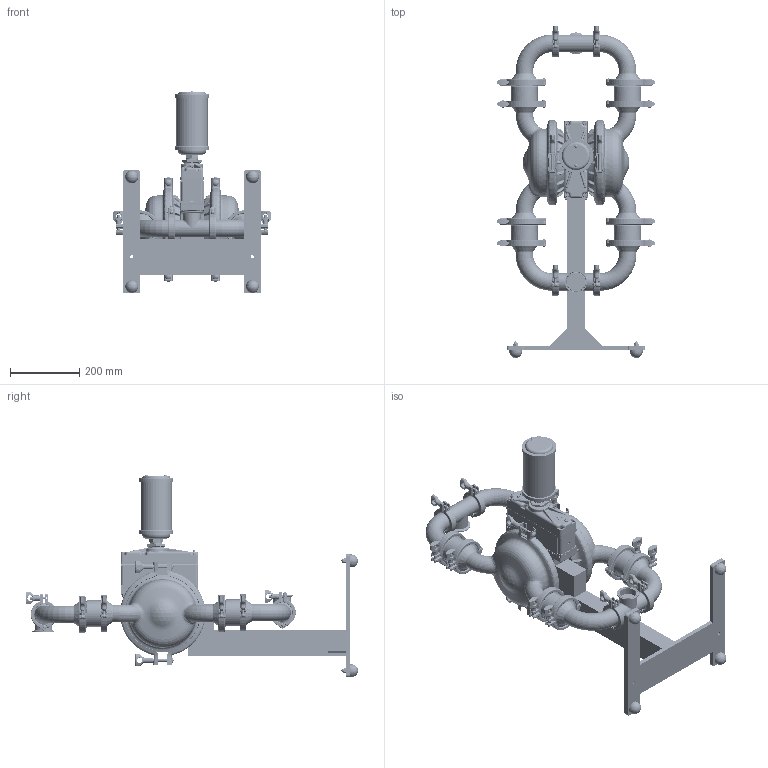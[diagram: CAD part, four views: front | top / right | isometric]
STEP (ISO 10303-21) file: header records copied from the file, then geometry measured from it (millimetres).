
FILE_DESCRIPTION (( 'STEP AP203' ), '1' );
FILE_NAME ('ps8_ss_saniflo_hs_ball_fixed.STEP', '2022-06-22T10:22:16', ( '' ), ( '' ), 'SwSTEP 2.0', 'SolidWorks 2019', '' );
FILE_SCHEMA (( 'CONFIG_CONTROL_DESIGN' ));
Products named in the file (1): ps8_ss_saniflo_hs_ball_fixed
Bounding box: 460.1 x 960.55 x 585.78 mm (x, y, z)
Volume: 18675097.9 mm3; surface area: 1516393.1 mm2
Topology: 1 solids, 1 shells, 10016 faces, 25338 edges, 15420 vertices
Faces by surface type: plane 3847, cylinder 2081, bspline 1902, torus 1310, cone 570, sphere 306
Entity records: 567505 total; most frequent: CARTESIAN_POINT 342188, ORIENTED_EDGE 50212, DIRECTION 42892, EDGE_CURVE 25106, AXIS2_PLACEMENT_3D 15428, VERTEX_POINT 15364, VECTOR 12036, LINE 12036
